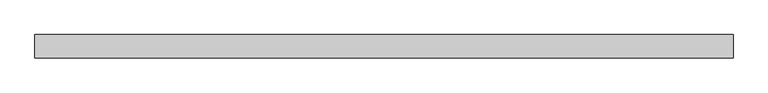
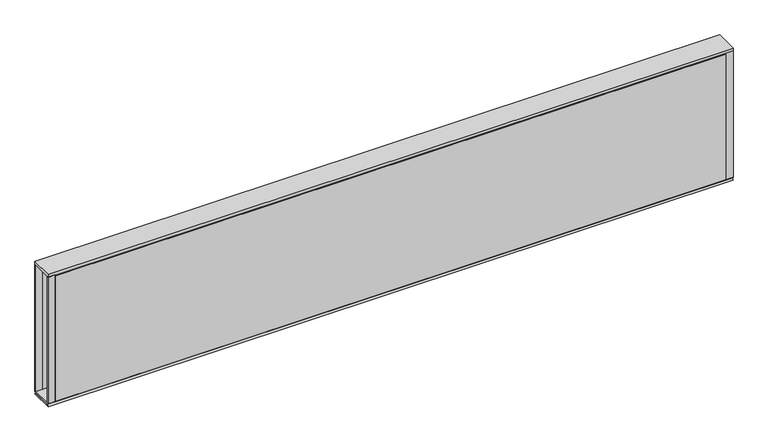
"""IFC4 building model written with IfcOpenShell, lengths in millimetres: furniture geometry, Steelcase - Kick Solutions - Panel - Stacker - Tackable Acoustical : 12H x 60W."""

from ifc_helpers import new_model, si_unit, frame, origin, place, context, project, spatial, polyline, outline, extrude, source, transform, mapped, element, save


def furniture_5ebdad14(model_context):
    return source(origin(), model_context, "Body", "SweptSolid", [
        extrude(outline(polyline([(-50.7995075, 1073.2669139), (-0.000494, 1073.2669139), (-3.1752531, 1070.0921549), (-47.6247484, 1070.0921549), (-50.7995075, 1073.2669139)])), frame((0.0, 0.0, 0.0), z_axis=(1.0, 0.0, 0.0), x_axis=(0.0, 1.0, 0.0)), (0.0, 0.0, 1.0), 1524.0),
        extrude(outline(polyline([(0.0, 1073.2669139), (-3.1750015, 1073.2669139), (-3.1750015, 1371.7169018), (0.0, 1368.6357466), (0.0, 1073.2669139)])), frame((15.8749996, 0.0, 0.0), z_axis=(1.0, 0.0, 0.0), x_axis=(0.0, 1.0, 0.0)), (0.0, 0.0, 1.0), 1492.2500008),
        extrude(outline(polyline([(-50.8000015, 1073.2669139), (-50.8000015, 1368.6357466), (-47.625, 1371.7169018), (-47.625, 1073.2669139), (-50.8000015, 1073.2669139)])), frame((15.8749996, 0.0, 0.0), z_axis=(1.0, 0.0, 0.0), x_axis=(0.0, 1.0, 0.0)), (0.0, 0.0, 1.0), 1492.2500008),
        extrude(outline(polyline([(1524.0, -3.1750015), (1508.1250004, -3.1750015), (1508.1250004, 0.0), (1524.0, 0.0), (1524.0, -3.1750015)])), frame((0.0, 0.0, 1073.2669139), z_axis=(0.0, 0.0, 1.0), x_axis=(1.0, 0.0, 0.0)), (0.0, 0.0, 1.0), 298.4499879),
        extrude(outline(polyline([(15.8749996, -50.8000015), (0.0, -50.8000015), (0.0, -47.625), (15.8749996, -47.625), (15.8749996, -50.8000015)])), frame((0.0, 0.0, 1073.2669139), z_axis=(0.0, 0.0, 1.0), x_axis=(1.0, 0.0, 0.0)), (0.0, 0.0, 1.0), 298.4499879),
        extrude(outline(polyline([(1524.0, 0.0), (1524.0, -50.8000015), (0.0, -50.8000015), (0.0, 0.0), (1524.0, 0.0)])), frame((0.0, 0.0, 1371.7169018), z_axis=(0.0, 0.0, 1.0), x_axis=(1.0, 0.0, 0.0)), (0.0, 0.0, 1.0), 6.35),
        extrude(outline(polyline([(15.8749996, -3.1750015), (0.0, -3.1750015), (0.0, 0.0), (15.8749996, 0.0), (15.8749996, -3.1750015)])), frame((0.0, 0.0, 1073.2669139), z_axis=(0.0, 0.0, 1.0), x_axis=(1.0, 0.0, 0.0)), (0.0, 0.0, 1.0), 298.4499879),
        extrude(outline(polyline([(1524.0, -50.8000015), (1508.1250004, -50.8000015), (1508.1250004, -47.625), (1524.0, -47.625), (1524.0, -50.8000015)])), frame((0.0, 0.0, 1073.2669139), z_axis=(0.0, 0.0, 1.0), x_axis=(1.0, 0.0, 0.0)), (0.0, 0.0, 1.0), 298.4499879),
        extrude(outline(polyline([(-50.8000015, 1066.9169018), (-47.6247484, 1070.0921549), (-3.1752531, 1070.0921549), (0.0, 1066.9169018), (-50.8000015, 1066.9169018)])), frame((0.0, 0.0, 0.0), z_axis=(1.0, 0.0, 0.0), x_axis=(0.0, 1.0, 0.0)), (0.0, 0.0, 1.0), 1524.0),
    ])


if __name__ == "__main__":
    model = new_model("IFC4")
    model_context = context("Model", 3, world=origin())
    ifc_project = project(units=[si_unit("LENGTHUNIT", "METRE", prefix="MILLI")], contexts=[model_context])
    site = spatial("IfcSite", under=ifc_project)
    building = spatial("IfcBuilding", under=site)
    placement = place(None, origin())
    furniture_shape = furniture_5ebdad14(model_context)
    element("IfcFurniture", 1, ObjectType="Steelcase - Kick Solutions - Panel - Stacker - Tackable Acoustical : 12H x 60W", at=placement, inside=building, context=model_context, shape_type="MappedRepresentation", body=[
        mapped(furniture_shape, transform((0.0, 0.0, 0.0), x_axis=(1.0, 0.0, 0.0), y_axis=(0.0, 1.0, 0.0), z_axis=(0.0, 0.0, 1.0))),
    ])
    save(model, "model.ifc")
